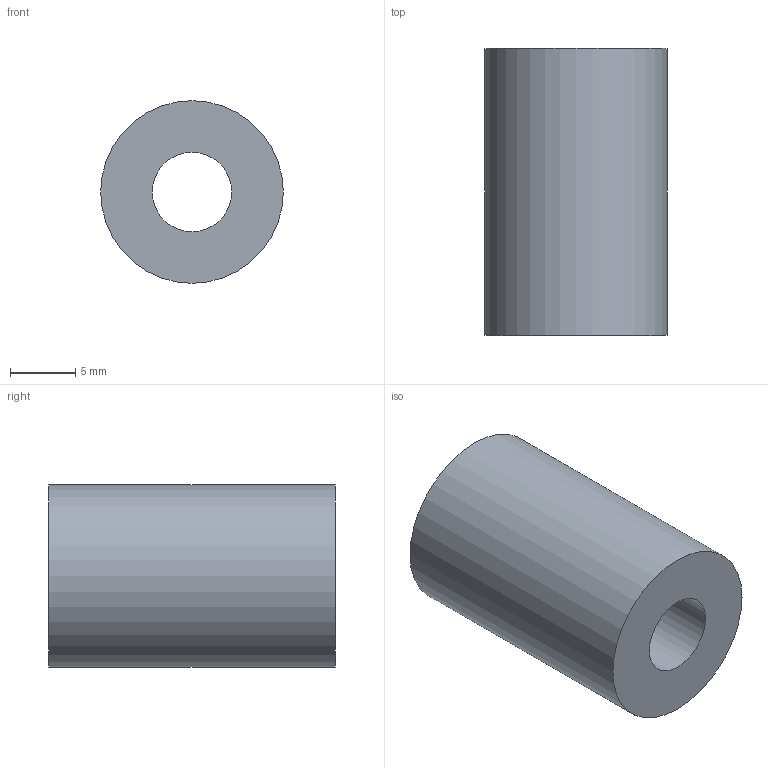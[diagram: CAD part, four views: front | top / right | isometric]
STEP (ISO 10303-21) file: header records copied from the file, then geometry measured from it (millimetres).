
FILE_DESCRIPTION(('Open CASCADE Model'),'2;1');
FILE_NAME('Open CASCADE Shape Model','2026-10-15T18:27:22',('Author'),( 'Open CASCADE'),'Open CASCADE STEP processor 7.9','Open CASCADE 7.9' ,'Unknown');
FILE_SCHEMA(('AUTOMOTIVE_DESIGN { 1 0 10303 214 1 1 1 1 }'));
Length unit declared in the file: millimetre
Products named in the file (1): Open CASCADE STEP translator 7.9 9
Bounding box: 14 x 22 x 14 mm (x, y, z)
Volume: 2743.7 mm3; surface area: 1638.6 mm2
Topology: 1 solids, 1 shells, 4 faces, 6 edges, 4 vertices
Faces by surface type: cylinder 2, plane 2
Full cylindrical faces by diameter (mm): 6.1 x1, 14 x1
Entity records: 192 total; most frequent: CARTESIAN_POINT 39, DIRECTION 30, ORIENTED_EDGE 12, PCURVE 12, DEFINITIONAL_REPRESENTATION 12, LINE 10, VECTOR 10, AXIS2_PLACEMENT_3D 9
